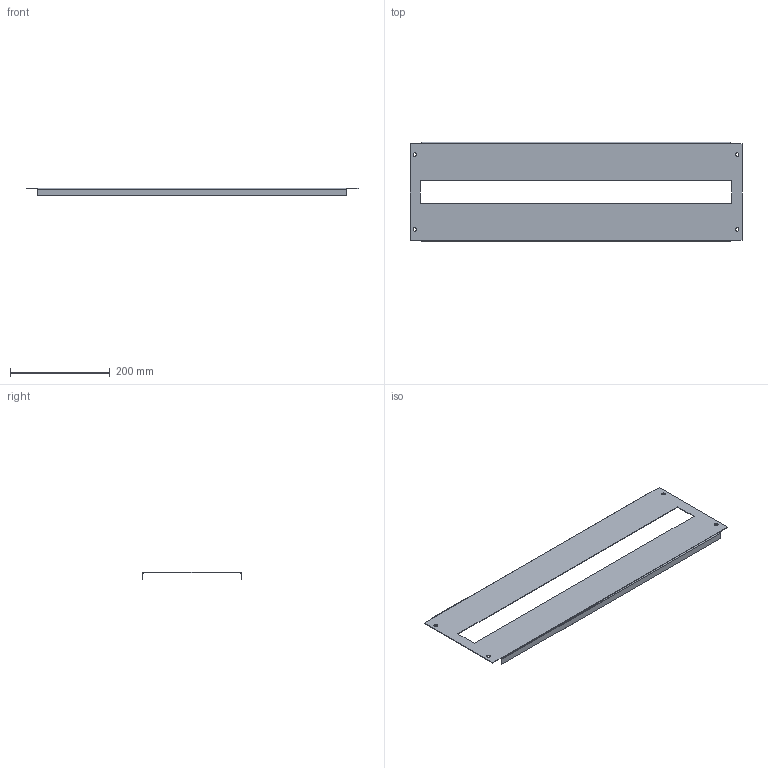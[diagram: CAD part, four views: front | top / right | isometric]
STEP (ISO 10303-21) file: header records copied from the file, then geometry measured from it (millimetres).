
FILE_DESCRIPTION (( 'STEP AP203' ), '1' );
FILE_NAME ('MB 20.70 P Ïàíåëü ìîäóëüíàÿ.STEP', '2012-11-21T07:11:35', ( 'system' ), ( '' ), 'SwSTEP 2.0', 'SolidWorks 2012', '' );
FILE_SCHEMA (( 'CONFIG_CONTROL_DESIGN' ));
Length unit declared in the file: millimetre
Products named in the file (1): MB 20.70 P Ïàíåëü ìîäóëüíàÿ
Bounding box: 665 x 199 x 15 mm (x, y, z)
Volume: 143316.3 mm3; surface area: 242707.7 mm2
Topology: 1 solids, 1 shells, 38 faces, 92 edges, 56 vertices
Faces by surface type: plane 26, cylinder 12
Entity records: 1189 total; most frequent: DIRECTION 194, CARTESIAN_POINT 187, ORIENTED_EDGE 184, EDGE_CURVE 92, LINE 68, VECTOR 68, AXIS2_PLACEMENT_3D 63, VERTEX_POINT 56
